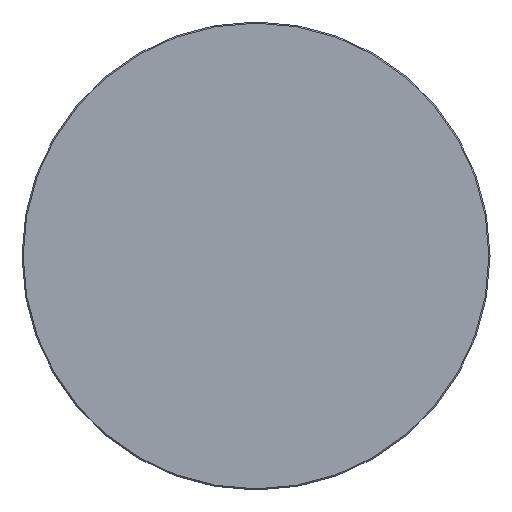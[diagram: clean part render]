
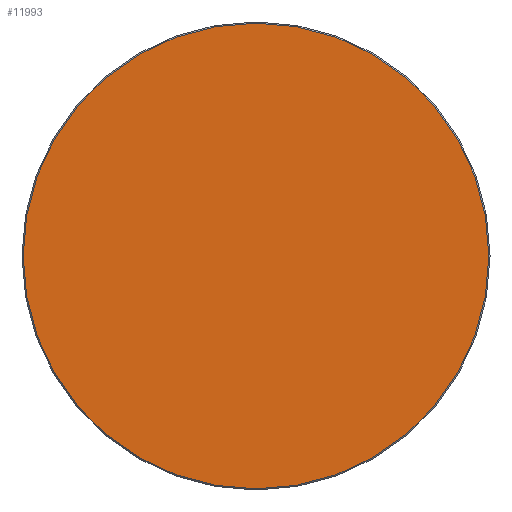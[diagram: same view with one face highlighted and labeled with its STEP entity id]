
A CAD part, top view. The second image highlights one B-rep face of the part: STEP entity #11993.
In plain terms, the highlighted planar face has unit normal (0, 0, 1).
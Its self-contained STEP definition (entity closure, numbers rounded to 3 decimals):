
#11918=CARTESIAN_POINT('',(0.,0.,20.));
#11919=DIRECTION('',(1.,0.,0.));
#11920=DIRECTION('',(0.,0.,1.));
#11921=AXIS2_PLACEMENT_3D('',#11918,#11920,#11919);
#11922=PLANE('',#11921);
#11923=CARTESIAN_POINT('',(-0.5,-298.5,20.));
#11924=VERTEX_POINT('',#11923);
#11925=CARTESIAN_POINT('',(0.5,-298.5,20.));
#11926=VERTEX_POINT('',#11925);
#11927=CARTESIAN_POINT('',(-0.5,-298.5,20.));
#11928=DIRECTION('',(1.,0.,0.));
#11929=VECTOR('',#11928,1.);
#11930=LINE('',#11927,#11929);
#11931=EDGE_CURVE('',#11924,#11926,#11930,.T.);
#11932=ORIENTED_EDGE('E105',*,*,#11931,.T.);
#11933=CARTESIAN_POINT('',(298.5,-0.5,20.));
#11934=VERTEX_POINT('',#11933);
#11935=CARTESIAN_POINT('',(0.5,-0.5,20.));
#11936=DIRECTION('',(0.,-1.,0.));
#11937=DIRECTION('',(0.,-0.,1.));
#11938=AXIS2_PLACEMENT_3D('',#11935,#11937,#11936);
#11939=CIRCLE('',#11938,298.);
#11940=EDGE_CURVE('',#11926,#11934,#11939,.T.);
#11941=ORIENTED_EDGE('E107',*,*,#11940,.T.);
#11942=CARTESIAN_POINT('',(298.5,0.5,20.));
#11943=VERTEX_POINT('',#11942);
#11944=CARTESIAN_POINT('',(298.5,-0.5,20.));
#11945=DIRECTION('',(0.,1.,0.));
#11946=VECTOR('',#11945,1.);
#11947=LINE('',#11944,#11946);
#11948=EDGE_CURVE('',#11934,#11943,#11947,.T.);
#11949=ORIENTED_EDGE('E109',*,*,#11948,.T.);
#11950=CARTESIAN_POINT('',(0.5,298.5,20.));
#11951=VERTEX_POINT('',#11950);
#11952=CARTESIAN_POINT('',(0.5,0.5,20.));
#11953=DIRECTION('',(1.,0.,0.));
#11954=DIRECTION('',(0.,0.,1.));
#11955=AXIS2_PLACEMENT_3D('',#11952,#11954,#11953);
#11956=CIRCLE('',#11955,298.);
#11957=EDGE_CURVE('',#11943,#11951,#11956,.T.);
#11958=ORIENTED_EDGE('E111',*,*,#11957,.T.);
#11959=CARTESIAN_POINT('',(-0.5,298.5,20.));
#11960=VERTEX_POINT('',#11959);
#11961=CARTESIAN_POINT('',(0.5,298.5,20.));
#11962=DIRECTION('',(-1.,0.,0.));
#11963=VECTOR('',#11962,1.);
#11964=LINE('',#11961,#11963);
#11965=EDGE_CURVE('',#11951,#11960,#11964,.T.);
#11966=ORIENTED_EDGE('E113',*,*,#11965,.T.);
#11967=CARTESIAN_POINT('',(-298.5,0.5,20.));
#11968=VERTEX_POINT('',#11967);
#11969=CARTESIAN_POINT('',(-0.5,0.5,20.));
#11970=DIRECTION('',(0.,1.,0.));
#11971=DIRECTION('',(0.,0.,1.));
#11972=AXIS2_PLACEMENT_3D('',#11969,#11971,#11970);
#11973=CIRCLE('',#11972,298.);
#11974=EDGE_CURVE('',#11960,#11968,#11973,.T.);
#11975=ORIENTED_EDGE('E115',*,*,#11974,.T.);
#11976=CARTESIAN_POINT('',(-298.5,-0.5,20.));
#11977=VERTEX_POINT('',#11976);
#11978=CARTESIAN_POINT('',(-298.5,0.5,20.));
#11979=DIRECTION('',(0.,-1.,0.));
#11980=VECTOR('',#11979,1.);
#11981=LINE('',#11978,#11980);
#11982=EDGE_CURVE('',#11968,#11977,#11981,.T.);
#11983=ORIENTED_EDGE('E117',*,*,#11982,.T.);
#11984=CARTESIAN_POINT('',(-0.5,-0.5,20.));
#11985=DIRECTION('',(-1.,0.,0.));
#11986=DIRECTION('',(-0.,0.,1.));
#11987=AXIS2_PLACEMENT_3D('',#11984,#11986,#11985);
#11988=CIRCLE('',#11987,298.);
#11989=EDGE_CURVE('',#11977,#11924,#11988,.T.);
#11990=ORIENTED_EDGE('E119',*,*,#11989,.T.);
#11991=EDGE_LOOP('',(#11932,#11941,#11949,#11958,#11966,#11975,#11983,#11990));
#11992=FACE_OUTER_BOUND('',#11991,.T.);
#11993=ADVANCED_FACE('F2',(#11992),#11922,.T.);
